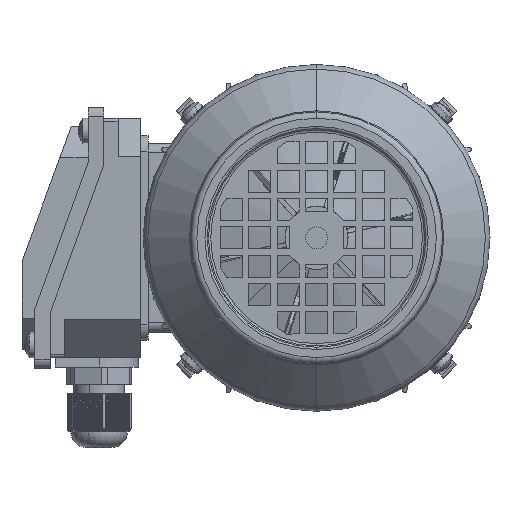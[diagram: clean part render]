
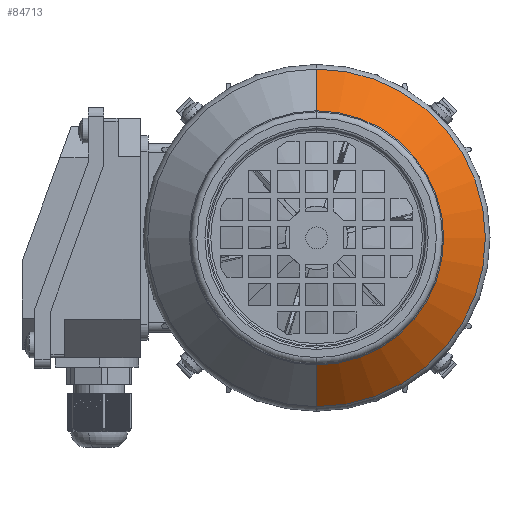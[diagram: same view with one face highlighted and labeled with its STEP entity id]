
A CAD part, left-side view. The second image highlights one B-rep face of the part: STEP entity #84713.
In plain terms, the highlighted conical face has half-angle 45 degrees and reference radius 53.586 mm.
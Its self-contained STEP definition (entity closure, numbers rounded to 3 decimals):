
#1125 = AXIS2_PLACEMENT_3D ( 'NONE', #72750, #60587, #80087 ) ;
#6461 = FACE_OUTER_BOUND ( 'NONE', #24859, .T. ) ;
#7316 = VERTEX_POINT ( 'NONE', #52262 ) ;
#7622 = CARTESIAN_POINT ( 'NONE',  ( -79.945, -5.573, 0. ) ) ;
#8922 = CARTESIAN_POINT ( 'NONE',  ( -79.945, -5.536, 53.586 ) ) ;
#11187 = DIRECTION ( 'NONE',  ( 0., 0.001, 1. ) ) ;
#12230 = VECTOR ( 'NONE', #73865, 1000. ) ;
#15411 = DIRECTION ( 'NONE',  ( 0., 0.001, 1. ) ) ;
#18037 = CARTESIAN_POINT ( 'NONE',  ( -79.945, -5.611, -53.586 ) ) ;
#22321 = DIRECTION ( 'NONE',  ( -1., 0., 0. ) ) ;
#24830 = EDGE_CURVE ( 'NONE', #7316, #76080, #54493, .T. ) ;
#24859 = EDGE_LOOP ( 'NONE', ( #71278, #74119, #38224, #42995 ) ) ;
#25338 = LINE ( 'NONE', #71727, #12230 ) ;
#34010 = CARTESIAN_POINT ( 'NONE',  ( -93.18, -5.545, 40.351 ) ) ;
#36154 = VERTEX_POINT ( 'NONE', #18037 ) ;
#37169 = VERTEX_POINT ( 'NONE', #8922 ) ;
#37577 = DIRECTION ( 'NONE',  ( -1., 0., 0. ) ) ;
#38224 = ORIENTED_EDGE ( 'NONE', *, *, #66482, .T. ) ;
#38467 = EDGE_CURVE ( 'NONE', #76080, #37169, #25338, .T. ) ;
#40283 = AXIS2_PLACEMENT_3D ( 'NONE', #7622, #22321, #15411 ) ;
#41652 = LINE ( 'NONE', #66399, #65395 ) ;
#42995 = ORIENTED_EDGE ( 'NONE', *, *, #84121, .T. ) ;
#52262 = CARTESIAN_POINT ( 'NONE',  ( -93.18, -5.602, -40.351 ) ) ;
#54493 = CIRCLE ( 'NONE', #75315, 40.351 ) ;
#56692 = CARTESIAN_POINT ( 'NONE',  ( -93.18, -5.573, 0. ) ) ;
#60587 = DIRECTION ( 'NONE',  ( 1., 0., 0. ) ) ;
#60650 = CONICAL_SURFACE ( 'NONE', #1125, 53.586, 0.785 ) ;
#65241 = CIRCLE ( 'NONE', #40283, 53.586 ) ;
#65395 = VECTOR ( 'NONE', #68120, 1000. ) ;
#66399 = CARTESIAN_POINT ( 'NONE',  ( -79.945, -5.611, -53.586 ) ) ;
#66482 = EDGE_CURVE ( 'NONE', #7316, #36154, #41652, .T. ) ;
#68120 = DIRECTION ( 'NONE',  ( 0.707, 0., -0.707 ) ) ;
#71278 = ORIENTED_EDGE ( 'NONE', *, *, #38467, .F. ) ;
#71727 = CARTESIAN_POINT ( 'NONE',  ( -79.945, -5.536, 53.586 ) ) ;
#72750 = CARTESIAN_POINT ( 'NONE',  ( -79.945, -5.573, 0. ) ) ;
#73865 = DIRECTION ( 'NONE',  ( 0.707, 0., 0.707 ) ) ;
#74119 = ORIENTED_EDGE ( 'NONE', *, *, #24830, .F. ) ;
#75315 = AXIS2_PLACEMENT_3D ( 'NONE', #56692, #37577, #11187 ) ;
#76080 = VERTEX_POINT ( 'NONE', #34010 ) ;
#80087 = DIRECTION ( 'NONE',  ( 0., -0.001, -1. ) ) ;
#84121 = EDGE_CURVE ( 'NONE', #36154, #37169, #65241, .T. ) ;
#84713 = ADVANCED_FACE ( 'NONE', ( #6461 ), #60650, .T. ) ;
